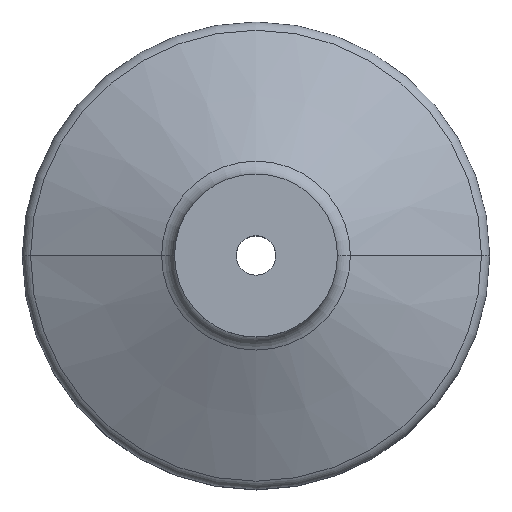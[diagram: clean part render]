
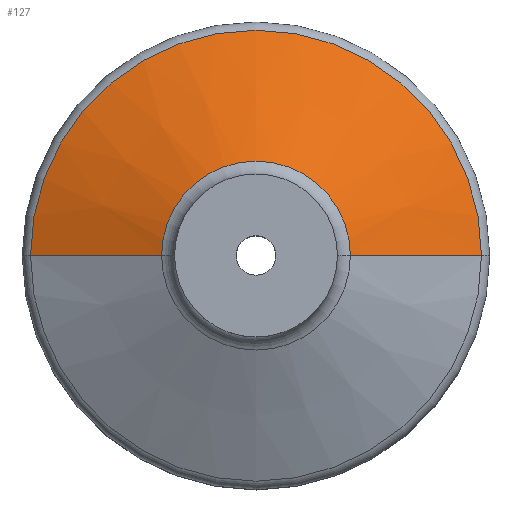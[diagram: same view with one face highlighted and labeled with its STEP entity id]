
A CAD part, top view. The second image highlights one B-rep face of the part: STEP entity #127.
In plain terms, the highlighted conical face has half-angle 65 degrees and reference radius 25.176 mm.
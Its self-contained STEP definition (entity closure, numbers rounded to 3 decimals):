
#91 = CARTESIAN_POINT ( 'NONE',  ( 0., 0., 41.611 ) ) ;
#96 = CARTESIAN_POINT ( 'NONE',  ( 0., 0., 34.788 ) ) ;
#102 = DIRECTION ( 'NONE',  ( -1., 0., 0. ) ) ;
#120 = AXIS2_PLACEMENT_3D ( 'NONE', #91, #995, #835 ) ;
#127 = ADVANCED_FACE ( 'NONE', ( #1569 ), #208, .T. ) ;
#161 = DIRECTION ( 'NONE',  ( 0.906, 0., -0.423 ) ) ;
#208 = CONICAL_SURFACE ( 'NONE', #1683, 25.176, 1.134 ) ;
#225 = VERTEX_POINT ( 'NONE', #850 ) ;
#278 = ORIENTED_EDGE ( 'NONE', *, *, #855, .T. ) ;
#507 = CARTESIAN_POINT ( 'NONE',  ( -25.176, 0., 34.788 ) ) ;
#566 = CIRCLE ( 'NONE', #887, 25.176 ) ;
#586 = EDGE_CURVE ( 'NONE', #1416, #775, #1377, .T. ) ;
#775 = VERTEX_POINT ( 'NONE', #507 ) ;
#794 = DIRECTION ( 'NONE',  ( -0.906, 0., -0.423 ) ) ;
#814 = DIRECTION ( 'NONE',  ( 0., 0., -1. ) ) ;
#835 = DIRECTION ( 'NONE',  ( -1., 0., 0. ) ) ;
#837 = CARTESIAN_POINT ( 'NONE',  ( 0., 0., 34.788 ) ) ;
#850 = CARTESIAN_POINT ( 'NONE',  ( 10.543, 0., 41.611 ) ) ;
#855 = EDGE_CURVE ( 'NONE', #1416, #225, #1284, .T. ) ;
#887 = AXIS2_PLACEMENT_3D ( 'NONE', #837, #1745, #102 ) ;
#910 = VERTEX_POINT ( 'NONE', #1880 ) ;
#931 = EDGE_LOOP ( 'NONE', ( #278, #1741, #1402, #1226 ) ) ;
#995 = DIRECTION ( 'NONE',  ( 0., 0., -1. ) ) ;
#1101 = EDGE_CURVE ( 'NONE', #910, #775, #566, .T. ) ;
#1226 = ORIENTED_EDGE ( 'NONE', *, *, #586, .F. ) ;
#1284 = CIRCLE ( 'NONE', #120, 10.543 ) ;
#1377 = LINE ( 'NONE', #1551, #1756 ) ;
#1402 = ORIENTED_EDGE ( 'NONE', *, *, #1101, .T. ) ;
#1416 = VERTEX_POINT ( 'NONE', #1548 ) ;
#1492 = LINE ( 'NONE', #1896, #1648 ) ;
#1548 = CARTESIAN_POINT ( 'NONE',  ( -10.543, 0., 41.611 ) ) ;
#1551 = CARTESIAN_POINT ( 'NONE',  ( -25.176, 0., 34.788 ) ) ;
#1569 = FACE_OUTER_BOUND ( 'NONE', #931, .T. ) ;
#1627 = EDGE_CURVE ( 'NONE', #225, #910, #1492, .T. ) ;
#1648 = VECTOR ( 'NONE', #161, 1000. ) ;
#1683 = AXIS2_PLACEMENT_3D ( 'NONE', #96, #814, #1724 ) ;
#1724 = DIRECTION ( 'NONE',  ( -1., 0., 0. ) ) ;
#1741 = ORIENTED_EDGE ( 'NONE', *, *, #1627, .T. ) ;
#1745 = DIRECTION ( 'NONE',  ( 0., 0., 1. ) ) ;
#1756 = VECTOR ( 'NONE', #794, 1000. ) ;
#1880 = CARTESIAN_POINT ( 'NONE',  ( 25.176, 0., 34.788 ) ) ;
#1896 = CARTESIAN_POINT ( 'NONE',  ( 25.176, 0., 34.788 ) ) ;
